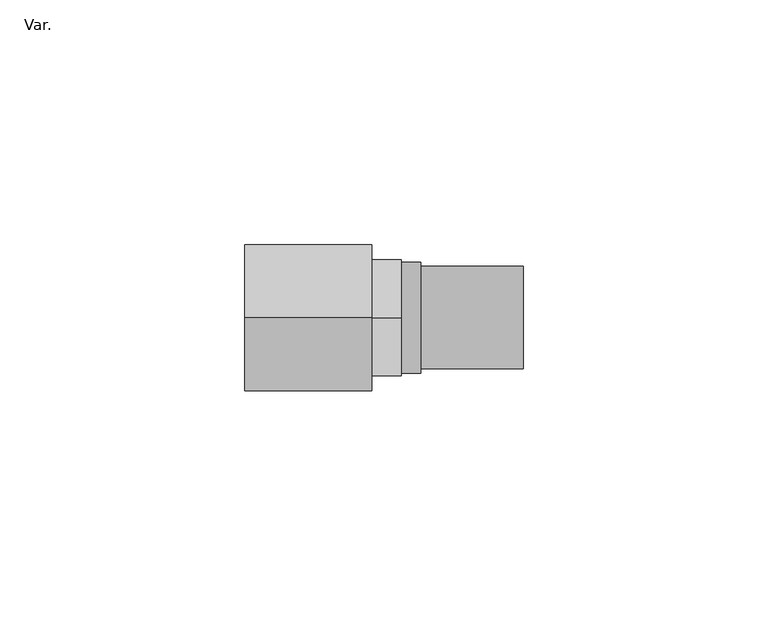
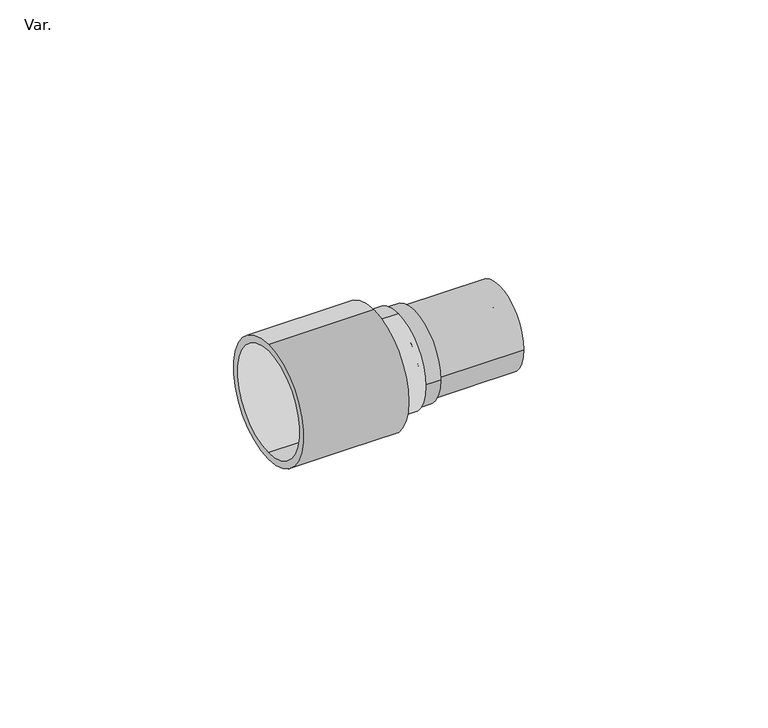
"""IFC4 building model written with IfcOpenShell, lengths in millimetres: pipe fitting geometry, Z_PIF_Tigris_Manifold_Connector_K5_Wavin_(nested) : Var.."""

import ifcopenshell
import ifcopenshell.guid

model = None  # the IFC model being written
_history = None  # IfcOwnerHistory: only IFC2X3 demands one
_inside = {}  # id of a spatial element -> (the spatial element, [elements in it])
_under = {}  # id of a project, library or spatial element -> (it, [spatial elements below it])
_declared = {}  # id of a project -> (the project, [libraries it declares])
_typed = {}  # id of a type object -> (the type object, [elements of that type])
_made_of = {}  # id of a material, layer set ... -> (it, [elements and type objects made of it])


def new_model(schema):
    """Start an empty IFC model of exactly this schema.

    Asked for "IFC4X3", IfcOpenShell would pick the latest addendum, in which some entities
    have other attributes; the version numbers below select the first issue.
    IFC2X3 requires an IfcOwnerHistory on every rooted entity: one is made here for all.
    """
    global model, _history
    if schema == "IFC4X3":
        model = ifcopenshell.file(schema_version=(4, 3, 0, 0))
    else:
        model = ifcopenshell.file(schema=schema)
    _inside.clear()
    _under.clear()
    _declared.clear()
    _typed.clear()
    _made_of.clear()
    _history = None
    if model.schema == "IFC2X3":
        org = make("IfcOrganization", Name="unknown")
        user = make(
            "IfcPersonAndOrganization",
            ThePerson=make("IfcPerson", FamilyName="unknown"),
            TheOrganization=org,
        )
        app = make(
            "IfcApplication",
            ApplicationDeveloper=org,
            Version="unknown",
            ApplicationFullName="unknown",
            ApplicationIdentifier="unknown",
        )
        _history = make(
            "IfcOwnerHistory",
            OwningUser=user,
            OwningApplication=app,
            ChangeAction="ADDED",
            CreationDate=0,
        )
    return model


def make(cls, **values):
    """One entity of the class cls with the attributes given. An attribute that is None is left unset."""
    return model.create_entity(
        cls, **{name: value for name, value in values.items() if value is not None}
    )


def rooted(cls, **values):
    """An entity with a GlobalId (a new one), such as an element, a storey or a relation."""
    return make(cls, GlobalId=ifcopenshell.guid.new(), OwnerHistory=_history, **values)


def si_unit(unit_type, name, prefix=None):
    """IfcSIUnit, for example si_unit("LENGTHUNIT", "METRE", prefix="MILLI")."""
    return make("IfcSIUnit", UnitType=unit_type, Prefix=prefix, Name=name)


def assignment(units):
    """IfcUnitAssignment: the units of a project."""
    return None if units is None else make("IfcUnitAssignment", Units=units)


def point(xyz):
    """IfcCartesianPoint."""
    return None if xyz is None else make("IfcCartesianPoint", Coordinates=xyz)


def direction(xyz):
    """IfcDirection."""
    return None if xyz is None else make("IfcDirection", DirectionRatios=xyz)


def frame(location, z_axis=None, x_axis=None):
    """IfcAxis2Placement3D, a coordinate frame: its origin and axes. An axis left out is left unset."""
    return make(
        "IfcAxis2Placement3D",
        Location=point(location),
        Axis=direction(z_axis),
        RefDirection=direction(x_axis),
    )


def frame_2d(location, x_axis=None):
    """IfcAxis2Placement2D, a coordinate frame in the plane: its origin and x axis."""
    return make(
        "IfcAxis2Placement2D", Location=point(location), RefDirection=direction(x_axis)
    )


def origin():
    """The frame at (0, 0, 0) with its axes left unset."""
    return frame((0.0, 0.0, 0.0))


def origin_2d():
    """The frame at (0, 0) in the plane with its x axis left unset."""
    return frame_2d((0.0, 0.0))


def place(relative_to, where):
    """IfcLocalPlacement: puts the frame where relative to a parent placement (None: the world)."""
    return make(
        "IfcLocalPlacement", PlacementRelTo=relative_to, RelativePlacement=where
    )


def context(
    kind, dimensions, precision=None, world=None, true_north=None, identifier=None
):
    """IfcGeometricRepresentationContext, for example the 3D "Model" context."""
    return make(
        "IfcGeometricRepresentationContext",
        ContextIdentifier=identifier,
        ContextType=kind,
        CoordinateSpaceDimension=dimensions,
        Precision=precision,
        WorldCoordinateSystem=world,
        TrueNorth=true_north,
    )


def project(units=None, contexts=None):
    """IfcProject with its units and contexts."""
    return rooted(
        "IfcProject",
        Name="project",
        RepresentationContexts=contexts,
        UnitsInContext=assignment(units),
    )


def spatial(cls, under=None, at=None, **own):
    """A site, building, storey or space (cls), placed at a placement, below another one or the project."""
    s = rooted(cls, ObjectPlacement=at, **own)
    if under is not None:
        _under.setdefault(under.id(), (under, []))[1].append(s)
    return s


def polyline(points):
    """IfcPolyline through the points."""
    return make("IfcPolyline", Points=[point(p) for p in points])


def circle_curve(where, radius):
    """IfcCircle in the frame where."""
    return make("IfcCircle", Position=where, Radius=radius)


def trimmed(basis, trim1, trim2, sense, master):
    """IfcTrimmedCurve: the piece of a basis curve between two trims."""
    return make(
        "IfcTrimmedCurve",
        BasisCurve=basis,
        Trim1=trim1,
        Trim2=trim2,
        SenseAgreement=sense,
        MasterRepresentation=master,
    )


def segment(curve, same_sense, transition):
    """IfcCompositeCurveSegment."""
    return make(
        "IfcCompositeCurveSegment",
        Transition=transition,
        SameSense=same_sense,
        ParentCurve=curve,
    )


def composite_curve(segments, self_intersect=None):
    """IfcCompositeCurve: segments joined end to end."""
    return make("IfcCompositeCurve", Segments=segments, SelfIntersect=self_intersect)


def outline(outer, holes=None, kind="AREA"):
    """IfcArbitraryClosedProfileDef: a profile drawn as a closed curve; with holes, ...WithVoids."""
    if holes is None:
        return make("IfcArbitraryClosedProfileDef", ProfileType=kind, OuterCurve=outer)
    return make(
        "IfcArbitraryProfileDefWithVoids",
        ProfileType=kind,
        OuterCurve=outer,
        InnerCurves=holes,
    )


def extrude(swept, where, along, depth):
    """IfcExtrudedAreaSolid: the profile swept, set in the frame where, extruded along a direction by depth."""
    return make(
        "IfcExtrudedAreaSolid",
        SweptArea=swept,
        Position=where,
        ExtrudedDirection=direction(along),
        Depth=depth,
    )


def shape(context_of_items, identifier, shape_type, items):
    """IfcShapeRepresentation: the items that make up one representation, for example the "Body"."""
    return make(
        "IfcShapeRepresentation",
        ContextOfItems=context_of_items,
        RepresentationIdentifier=identifier,
        RepresentationType=shape_type,
        Items=items,
    )


def source(mapping_origin, context_of_items, identifier, shape_type, items):
    """IfcRepresentationMap: a shape defined once, which mapped items show again and again."""
    return make(
        "IfcRepresentationMap",
        MappingOrigin=mapping_origin,
        MappedRepresentation=shape(context_of_items, identifier, shape_type, items),
    )


def transform(
    local_origin,
    x_axis=None,
    y_axis=None,
    z_axis=None,
    scale=None,
    scale2=None,
    scale3=None,
    uniform=True,
):
    """IfcCartesianTransformationOperator3D, or its non-uniform kind. x_axis, y_axis, z_axis: its Axis1, 2, 3."""
    if uniform:
        return make(
            "IfcCartesianTransformationOperator3D",
            Axis1=direction(x_axis),
            Axis2=direction(y_axis),
            LocalOrigin=point(local_origin),
            Scale=scale,
            Axis3=direction(z_axis),
        )
    return make(
        "IfcCartesianTransformationOperator3DnonUniform",
        Axis1=direction(x_axis),
        Axis2=direction(y_axis),
        LocalOrigin=point(local_origin),
        Scale=scale,
        Axis3=direction(z_axis),
        Scale2=scale2,
        Scale3=scale3,
    )


def mapped(mapping_source, mapping_target):
    """IfcMappedItem: shows the shape of a source again, moved by a transform."""
    return make(
        "IfcMappedItem", MappingSource=mapping_source, MappingTarget=mapping_target
    )


def made_of(thing, what):
    """Note that an element or type object is made of a material, layer set ...; save() writes the relation."""
    if what is not None:
        _made_of.setdefault(what.id(), (what, []))[1].append(thing)
    return thing


def element(
    cls,
    number,
    at=None,
    inside=None,
    cuts=None,
    type_object=None,
    material=None,
    context=None,
    identifier="Body",
    shape_type=None,
    held_by="IfcProductDefinitionShape",
    body=None,
    shapes=None,
    **own,
):
    """One element of the class cls, such as IfcWall. Its Tag is "e" and its number.

    at: its placement. inside: the storey or other place that contains it. cuts: it is an
    opening in that element (IfcRelVoidsElement). A single representation is given by context,
    identifier, shape_type and body (its items); several are given by shapes. held_by: the class
    of the entity that holds the representations. save() writes the other relations.
    """
    e = rooted(cls, Tag="e%d" % number, ObjectPlacement=at, **own)
    if body is not None:
        shapes = [shape(context, identifier, shape_type, body)]
    if shapes is not None:
        e.Representation = make(held_by, Representations=shapes)
    if inside is not None:
        _inside.setdefault(inside.id(), (inside, []))[1].append(e)
    if cuts is not None:
        rooted(
            "IfcRelVoidsElement", RelatingBuildingElement=cuts, RelatedOpeningElement=e
        )
    if type_object is not None:
        _typed.setdefault(type_object.id(), (type_object, []))[1].append(e)
    return made_of(e, material)


def aggregate(whole, parts):
    """IfcRelAggregates: a whole, such as a stair, and the parts it consists of."""
    return rooted("IfcRelAggregates", RelatingObject=whole, RelatedObjects=parts)


def save(model, path):
    """Write the relations noted so far, then the file.

    IfcRelAggregates (storeys below a building ...), IfcRelContainedInSpatialStructure (elements
    in a storey), IfcRelDefinesByType, IfcRelAssociatesMaterial and IfcRelDeclares: one each for
    every whole, place, type object, material and project.
    """
    for whole, parts in _under.values():
        aggregate(whole, parts)
    for where, things in _inside.values():
        rooted(
            "IfcRelContainedInSpatialStructure",
            RelatedElements=things,
            RelatingStructure=where,
        )
    for kind, things in _typed.values():
        rooted("IfcRelDefinesByType", RelatedObjects=things, RelatingType=kind)
    for what, things in _made_of.values():
        rooted("IfcRelAssociatesMaterial", RelatedObjects=things, RelatingMaterial=what)
    for by, libraries in _declared.values():
        rooted("IfcRelDeclares", RelatingContext=by, RelatedDefinitions=libraries)
    model.write(path)


def plane_surface(at):
    """IfcPlane: the flat surface through the origin of the frame at, square to its z axis."""
    return make("IfcPlane", Position=at)


def cylinder_surface(at, radius):
    """IfcCylindricalSurface: all points at the distance radius from the z axis of the frame at."""
    return make("IfcCylindricalSurface", Position=at, Radius=radius)


def revolved_surface(curve, axis_point, axis_direction):
    """IfcSurfaceOfRevolution: the curve turned about the line through axis_point along axis_direction."""
    return make(
        "IfcSurfaceOfRevolution",
        SweptCurve=make("IfcArbitraryOpenProfileDef", ProfileType="CURVE", Curve=curve),
        AxisPosition=make("IfcAxis1Placement", Location=point(axis_point), Axis=direction(axis_direction)),
    )


def advanced_brep(points, edges, surfaces, faces):
    """IfcAdvancedBrep: a solid bounded by faces that lie on surfaces and meet in shared edges.

    An edge is (start, end): straight between two places in points (the first is 0);
    or (start, end, curve); or (start, end, curve, False) where it runs against its curve.
    A face is (place in surfaces, loops), or (place, loops, False) where it looks against
    its surface's normal. A loop lists edges by number (the first is 1), with a minus sign
    where the edge is run from its end to its start. The first loop is the outer one.
    """
    corners = [point(p) for p in points]
    vertices = [make("IfcVertexPoint", VertexGeometry=c) for c in corners]
    made = []
    for start, end, *more in edges:
        made.append(
            make(
                "IfcEdgeCurve",
                EdgeStart=vertices[start],
                EdgeEnd=vertices[end],
                EdgeGeometry=more[0] if more else make("IfcPolyline", Points=[corners[start], corners[end]]),
                SameSense=more[1] if len(more) > 1 else True,
            )
        )
    hull = []
    for where, loops, *sense in faces:
        bounds = []
        for j, loop in enumerate(loops):
            ring = [make("IfcOrientedEdge", EdgeElement=made[abs(k) - 1], Orientation=k > 0) for k in loop]
            bounds.append(
                make(
                    "IfcFaceOuterBound" if j == 0 else "IfcFaceBound",
                    Bound=make("IfcEdgeLoop", EdgeList=ring),
                    Orientation=True,
                )
            )
        hull.append(make("IfcAdvancedFace", Bounds=bounds, FaceSurface=surfaces[where], SameSense=sense[0] if sense else True))
    return make("IfcAdvancedBrep", Outer=make("IfcClosedShell", CfsFaces=hull))


def var_e2d3336e(model_context):
    return source(origin(), model_context, "Body", "SolidModel", [
        extrude(outline(composite_curve([segment(trimmed(circle_curve(origin_2d(), 11.35), [point((11.35, 0.0))], [point((-11.35, 0.0))], False, "CARTESIAN"), True, "CONTINUOUS"), segment(trimmed(circle_curve(origin_2d(), 11.35), [point((-11.35, 0.0))], [point((11.35, 0.0))], False, "CARTESIAN"), True, "CONTINUOUS")], self_intersect=False)), frame((-1.0, 0.0, 0.0), z_axis=(1.0, 0.0, 0.0), x_axis=(0.0, 1.0, 0.0)), (0.0, 0.0, 1.0), 5.0),
        extrude(outline(composite_curve([segment(trimmed(circle_curve(origin_2d(), 10.5), [point((10.5, 0.0))], [point((-10.5, 0.0))], False, "CARTESIAN"), True, "CONTINUOUS"), segment(trimmed(circle_curve(origin_2d(), 10.5), [point((-10.5, 0.0))], [point((10.5, 0.0))], False, "CARTESIAN"), True, "CONTINUOUS")], self_intersect=False), holes=[composite_curve([segment(trimmed(circle_curve(origin_2d(), 8.2), [point((8.2, 0.0))], [point((-8.2, 0.0))], True, "CARTESIAN"), True, "CONTINUOUS"), segment(trimmed(circle_curve(origin_2d(), 8.2), [point((-8.2, 0.0))], [point((8.2, 0.0))], True, "CARTESIAN"), True, "CONTINUOUS")], self_intersect=False)]), frame((4.0, 0.0, 0.0), z_axis=(1.0, 0.0, 0.0), x_axis=(0.0, 1.0, 0.0)), (0.0, 0.0, 1.0), 21.0),
        extrude(outline(composite_curve([segment(trimmed(circle_curve(origin_2d(), 6.1), [point((6.1, 0.0))], [point((-6.1, 0.0))], False, "CARTESIAN"), True, "CONTINUOUS"), segment(trimmed(circle_curve(origin_2d(), 6.1), [point((-6.1, 0.0))], [point((6.1, 0.0))], False, "CARTESIAN"), True, "CONTINUOUS")], self_intersect=False), holes=[composite_curve([segment(trimmed(circle_curve(origin_2d(), 4.0), [point((4.0, 0.0))], [point((-4.0, 0.0))], True, "CARTESIAN"), True, "CONTINUOUS"), segment(trimmed(circle_curve(origin_2d(), 4.0), [point((-4.0, 0.0))], [point((4.0, 0.0))], True, "CARTESIAN"), True, "CONTINUOUS")], self_intersect=False)]), frame((0.0, 0.0, 0.0), z_axis=(1.0, 0.0, 0.0), x_axis=(0.0, 1.0, 0.0)), (0.0, 0.0, 1.0), 25.0),
        extrude(outline(composite_curve([segment(trimmed(circle_curve(origin_2d(), 11.9), [point((0.0, -11.9))], [point((0.0, 11.9))], False, "CARTESIAN"), True, "CONTINUOUS"), segment(trimmed(circle_curve(origin_2d(), 11.9), [point((0.0, 11.9))], [point((0.0, -11.9))], False, "CARTESIAN"), True, "CONTINUOUS")], self_intersect=False)), frame((-6.0, 0.0, 0.0), z_axis=(1.0, 0.0, 0.0), x_axis=(0.0, 1.0, 0.0)), (0.0, 0.0, 1.0), 6.0),
        advanced_brep(
        [(-32.0, 0.0, -15.0), (-32.0, 0.0, 15.0), (-32.0, 0.0, 13.25), (-32.0, 0.0, -13.25), (-6.0, 0.0, -15.0), (-6.0, 0.0, 15.0), (-18.0, 0.0, 13.25), (-18.0, 0.0, -13.25)],
        [
            (0, 1, circle_curve(frame((-32.0, 0.0, 0.0), z_axis=(-1.0, 0.0, 0.0), x_axis=(0.0, 0.0, 1.0)), 15.0)),
            (1, 0, circle_curve(frame((-32.0, 0.0, 0.0), z_axis=(-1.0, 0.0, 0.0), x_axis=(0.0, 0.0, 1.0)), 15.0)),
            (2, 3, circle_curve(frame((-32.0, 0.0, 0.0), z_axis=(1.0, 0.0, 0.0), x_axis=(0.0, 0.0, -1.0)), 13.25)),
            (3, 2, circle_curve(frame((-32.0, 0.0, 0.0), z_axis=(1.0, 0.0, 0.0), x_axis=(0.0, 0.0, -1.0)), 13.25)),
            (4, 5, circle_curve(frame((-6.0, 0.0, 0.0), z_axis=(1.0, 0.0, 0.0), x_axis=(0.0, 0.0, 1.0)), 15.0)),
            (5, 4, circle_curve(frame((-6.0, 0.0, 0.0), z_axis=(1.0, 0.0, 0.0), x_axis=(0.0, 0.0, 1.0)), 15.0)),
            (0, 4),
            (5, 1),
            (6, 7, circle_curve(frame((-18.0, 0.0, 0.0), z_axis=(-1.0, 0.0, 0.0), x_axis=(0.0, 0.0, -1.0)), 13.25)),
            (7, 6, circle_curve(frame((-18.0, 0.0, 0.0), z_axis=(-1.0, 0.0, 0.0), x_axis=(0.0, 0.0, -1.0)), 13.25)),
            (7, 3),
            (2, 6),
        ],
        [
            plane_surface(frame((-32.0, 0.0, 15.0), z_axis=(-1.0, 0.0, 0.0), x_axis=(0.0, 1.0, 0.0))),
            plane_surface(frame((-6.0, 0.0, 15.0), z_axis=(1.0, 0.0, 0.0), x_axis=(0.0, -1.0, 0.0))),
            cylinder_surface(frame((-6.0, 0.0, 0.0), z_axis=(-1.0, 0.0, 0.0), x_axis=(0.0, 0.0, 1.0)), 15.0),
            plane_surface(frame((-18.0, 0.0, -13.25), z_axis=(-1.0, 0.0, 0.0), x_axis=(0.0, 1.0, 0.0))),
            revolved_surface(polyline([(-18.0, 0.0, -13.25), (-32.0, 0.0, -13.25)]), (-32.0, 0.0, 0.0), (1.0, 0.0, 0.0)),
        ],
        [
            (0, [[1, 2], [3, 4]]),
            (1, [[5, 6]]),
            (2, [[-1, 7, -6, 8]]),
            (2, [[-2, -8, -5, -7]]),
            (3, [[9, 10]]),
            (4, [[-10, 11, -3, 12]]),
            (4, [[-9, -12, -4, -11]]),
        ],
    ),
    ])


if __name__ == "__main__":
    model = new_model("IFC4")
    model_context = context("Model", 3, world=origin())
    ifc_project = project(units=[si_unit("LENGTHUNIT", "METRE", prefix="MILLI")], contexts=[model_context])
    site = spatial("IfcSite", under=ifc_project)
    building = spatial("IfcBuilding", under=site)
    placement = place(None, origin())
    var_shape = var_e2d3336e(model_context)
    element("IfcPipeFitting", 1, ObjectType="Z_PIF_Tigris_Manifold_Connector_K5_Wavin_(nested) : Var.", at=placement, inside=building, context=model_context, shape_type="MappedRepresentation", body=[
        mapped(var_shape, transform((0.0, 0.0, 0.0), x_axis=(1.0, 0.0, 0.0), y_axis=(0.0, 1.0, 0.0), z_axis=(0.0, 0.0, 1.0))),
    ])
    save(model, "model.ifc")
